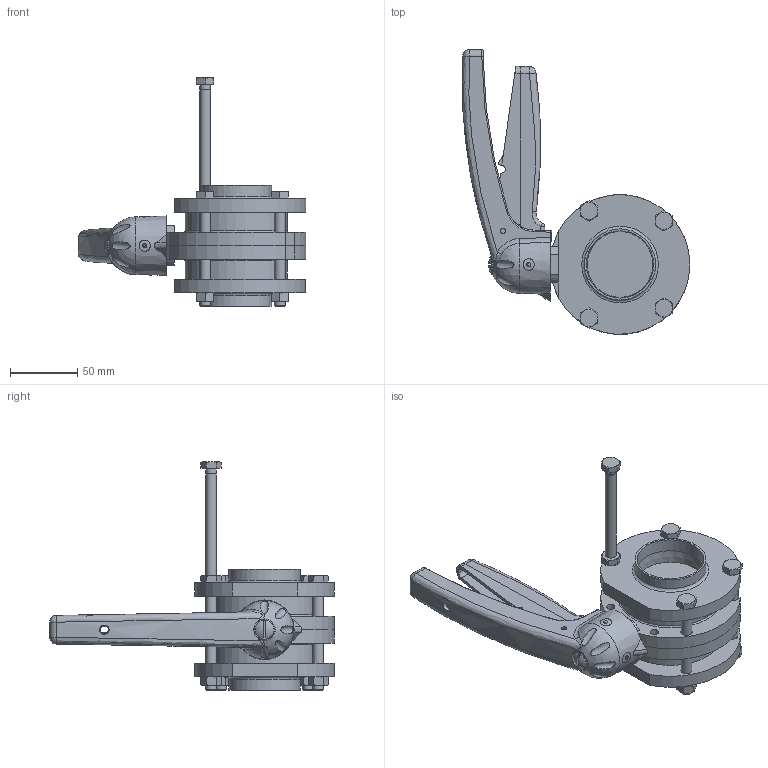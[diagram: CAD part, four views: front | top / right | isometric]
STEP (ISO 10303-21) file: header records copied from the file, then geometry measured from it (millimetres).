
FILE_DESCRIPTION(/* description */ ('VVF VALV.FARF.DN50(53X1.5) WAF4 316 EPDM LEVA 5POS.'),/* implementation_level */ '2;1');
FILE_NAME(/* name */ 'BEBAC6050BEAA-00^SAGOMA.step',/* time_stamp */ '2026-06-12T13:40:23+02:00',/* author */ (''),/* organization */ (''),/* preprocessor_version */ 'ST-DEVELOPER v20.1',/* originating_system */ 'Autodesk Inventor 2026',/* authorisation */ '');
FILE_SCHEMA (('CONFIG_CONTROL_DESIGN'));
Length unit declared in the file: millimetre
Products named in the file (6): BEBAC6050BEAA; 3DCMP000279; MEZZO-COR-DN050-WAFER-4; TPM020050BBA; RBIAA.M08; RBAAA08X80
Assembly tree (14 placements, depth 2):
  BEBAC6050BEAA
    3DCMP000279
    MEZZO-COR-DN050-WAFER-4  x2
    TPM020050BBA  x2
    RBAAA08X80  x5
    RBIAA.M08  x4
Bounding box: 169.25 x 211.91 x 170 mm (x, y, z)
Volume: 549888.7 mm3; surface area: 160036.6 mm2
Topology: 14 solids, 15 shells, 683 faces, 1650 edges, 1022 vertices
Faces by surface type: plane 318, cylinder 131, cone 122, bspline 81, sphere 18, torus 13
Full cylindrical faces by diameter (mm): 4 x4, 4.016 x1, 6 x2, 6.2 x4, 6.5 x1, 8 x14, 8.2 x8, 8.5 x4, 13 x6, 14.5 x1, 50 x2, 53 x2, 76 x2
Entity records: 23238 total; most frequent: CARTESIAN_POINT 11699, ORIENTED_EDGE 2422, DIRECTION 2138, EDGE_CURVE 1211, AXIS2_PLACEMENT_3D 781, VERTEX_POINT 764, LINE 576, VECTOR 576
